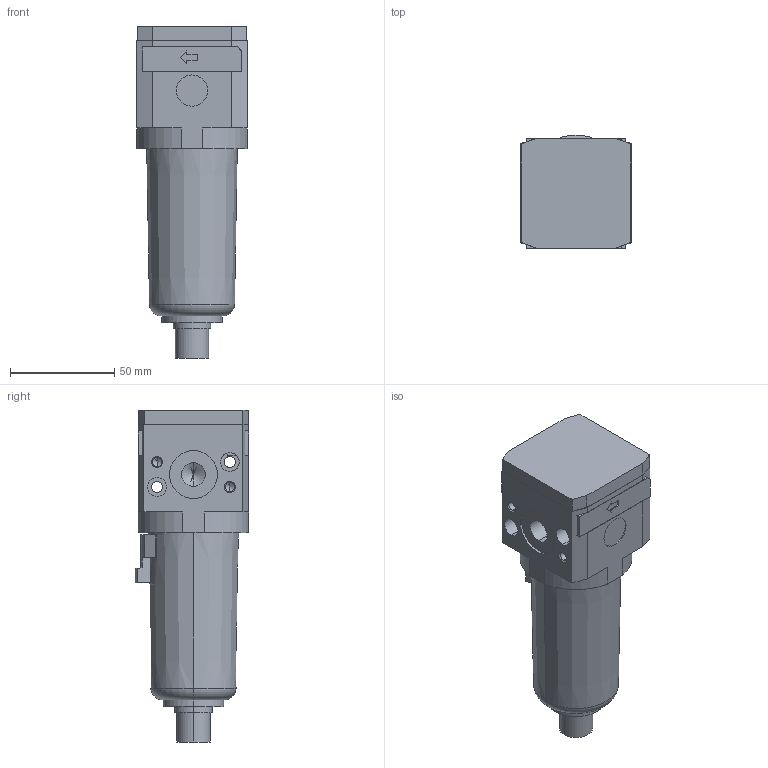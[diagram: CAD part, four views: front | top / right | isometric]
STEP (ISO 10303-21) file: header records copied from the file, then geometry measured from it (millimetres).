
FILE_DESCRIPTION((''),'2;1');
FILE_NAME('I:\DOC-EDP\Lib-3d\FRL\17208A_.stp','2003-06-16T14:55:55',('maffial1'),(''),'Autodesk Inventor 7','Autodesk Inventor 7','');
FILE_SCHEMA(('AUTOMOTIVE_DESIGN { 1 0 10303 214 1 1 1 1 }'));
Length unit declared in the file: millimetre
Products named in the file (1): 17208A_
Bounding box: 53 x 54.39 x 159.5 mm (x, y, z)
Volume: 266319.8 mm3; surface area: 38929.4 mm2
Topology: 1 solids, 3 shells, 173 faces, 430 edges, 272 vertices
Faces by surface type: plane 67, bspline 57, cylinder 34, cone 13, torus 2
Entity records: 5441 total; most frequent: CARTESIAN_POINT 1427, ORIENTED_EDGE 836, DIRECTION 782, EDGE_CURVE 418, VECTOR 288, LINE 288, VERTEX_POINT 272, AXIS2_PLACEMENT_3D 247
